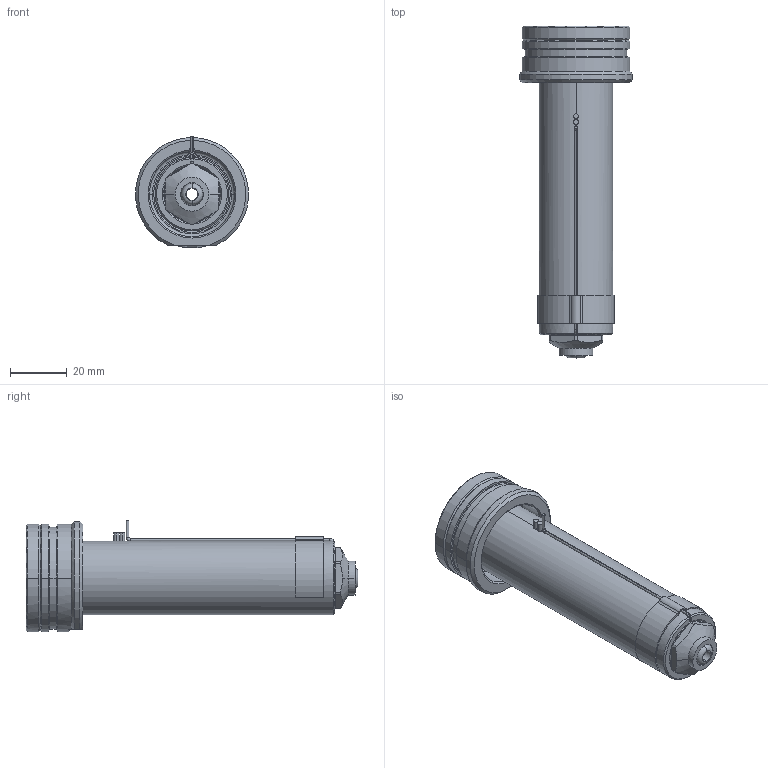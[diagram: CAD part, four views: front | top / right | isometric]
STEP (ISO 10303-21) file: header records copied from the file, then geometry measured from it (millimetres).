
FILE_DESCRIPTION((''),'2;1');
FILE_NAME('EO08_VG-BL_WR_100_SW','2024-02-19T13:07:08',('sundharh'),(''),'CREO PARAMETRIC BY PTC INC, 2023154','CREO PARAMETRIC BY PTC INC, 2023154','');
FILE_SCHEMA(('CONFIG_CONTROL_DESIGN'));
Length unit declared in the file: millimetre
Products named in the file (1): EO08_VG-BL_WR_100_SW
Bounding box: 39.88 x 117.2 x 39.52 mm (x, y, z)
Volume: 63584.5 mm3; surface area: 19056.4 mm2
Topology: 1 solids, 1 shells, 197 faces, 483 edges, 292 vertices
Faces by surface type: cylinder 72, plane 45, cone 39, torus 27, bspline 12, sphere 2
Entity records: 7174 total; most frequent: CARTESIAN_POINT 2441, DIRECTION 1055, ORIENTED_EDGE 958, EDGE_CURVE 479, AXIS2_PLACEMENT_3D 442, VERTEX_POINT 292, CIRCLE 257, EDGE_LOOP 213
